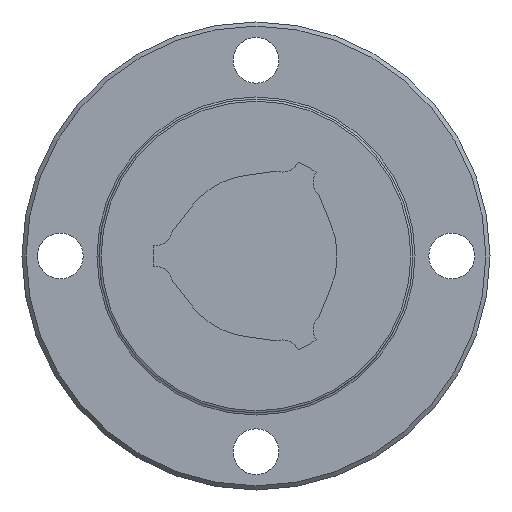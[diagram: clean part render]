
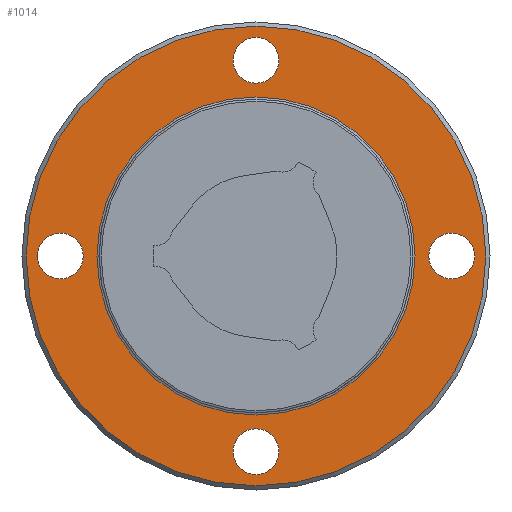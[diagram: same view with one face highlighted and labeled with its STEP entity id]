
A CAD part, left-side view. The second image highlights one B-rep face of the part: STEP entity #1014.
In plain terms, the highlighted planar face has unit normal (-1, 0, 0).
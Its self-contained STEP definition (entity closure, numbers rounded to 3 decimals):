
#49=PLANE('',#1146);
#319=ORIENTED_EDGE('',*,*,#534,.F.);
#320=ORIENTED_EDGE('',*,*,#535,.T.);
#321=ORIENTED_EDGE('',*,*,#536,.T.);
#322=ORIENTED_EDGE('',*,*,#537,.T.);
#323=ORIENTED_EDGE('',*,*,#538,.T.);
#324=ORIENTED_EDGE('',*,*,#533,.T.);
#533=EDGE_CURVE('',#651,#651,#730,.T.);
#534=EDGE_CURVE('',#652,#652,#731,.T.);
#535=EDGE_CURVE('',#653,#653,#732,.T.);
#536=EDGE_CURVE('',#654,#654,#733,.T.);
#537=EDGE_CURVE('',#655,#655,#734,.T.);
#538=EDGE_CURVE('',#656,#656,#735,.T.);
#651=VERTEX_POINT('',#1766);
#652=VERTEX_POINT('',#1769);
#653=VERTEX_POINT('',#1771);
#654=VERTEX_POINT('',#1773);
#655=VERTEX_POINT('',#1775);
#656=VERTEX_POINT('',#1777);
#730=CIRCLE('',#1145,38.2);
#731=CIRCLE('',#1147,55.2);
#732=CIRCLE('',#1148,5.5);
#733=CIRCLE('',#1149,5.5);
#734=CIRCLE('',#1150,5.5);
#735=CIRCLE('',#1151,5.5);
#795=EDGE_LOOP('',(#319));
#796=EDGE_LOOP('',(#320));
#797=EDGE_LOOP('',(#321));
#798=EDGE_LOOP('',(#322));
#799=EDGE_LOOP('',(#323));
#800=EDGE_LOOP('',(#324));
#891=FACE_BOUND('',#795,.T.);
#892=FACE_BOUND('',#796,.T.);
#893=FACE_BOUND('',#797,.T.);
#894=FACE_BOUND('',#798,.T.);
#895=FACE_BOUND('',#799,.T.);
#896=FACE_BOUND('',#800,.T.);
#1014=ADVANCED_FACE('',(#891,#892,#893,#894,#895,#896),#49,.F.);
#1145=AXIS2_PLACEMENT_3D('',#1765,#1388,#1389);
#1146=AXIS2_PLACEMENT_3D('',#1767,#1390,#1391);
#1147=AXIS2_PLACEMENT_3D('',#1768,#1392,#1393);
#1148=AXIS2_PLACEMENT_3D('',#1770,#1394,#1395);
#1149=AXIS2_PLACEMENT_3D('',#1772,#1396,#1397);
#1150=AXIS2_PLACEMENT_3D('',#1774,#1398,#1399);
#1151=AXIS2_PLACEMENT_3D('',#1776,#1400,#1401);
#1388=DIRECTION('',(1.,0.,0.));
#1389=DIRECTION('',(0.,1.,0.));
#1390=DIRECTION('',(1.,0.,0.));
#1391=DIRECTION('',(0.,1.,0.));
#1392=DIRECTION('',(1.,0.,0.));
#1393=DIRECTION('',(0.,1.,0.));
#1394=DIRECTION('',(1.,0.,0.));
#1395=DIRECTION('',(0.,0.,-1.));
#1396=DIRECTION('',(1.,0.,0.));
#1397=DIRECTION('',(0.,0.,-1.));
#1398=DIRECTION('',(1.,0.,0.));
#1399=DIRECTION('',(0.,0.,-1.));
#1400=DIRECTION('',(1.,0.,0.));
#1401=DIRECTION('',(0.,0.,-1.));
#1765=CARTESIAN_POINT('',(46.,0.,0.));
#1766=CARTESIAN_POINT('',(46.,38.2,0.));
#1767=CARTESIAN_POINT('',(46.,38.2,0.));
#1768=CARTESIAN_POINT('',(46.,0.,0.));
#1769=CARTESIAN_POINT('',(46.,55.2,0.));
#1770=CARTESIAN_POINT('',(46.,47.,0.));
#1771=CARTESIAN_POINT('',(46.,47.,-5.5));
#1772=CARTESIAN_POINT('',(46.,0.,-47.));
#1773=CARTESIAN_POINT('',(46.,0.,-52.5));
#1774=CARTESIAN_POINT('',(46.,0.,47.));
#1775=CARTESIAN_POINT('',(46.,0.,41.5));
#1776=CARTESIAN_POINT('',(46.,-47.,0.));
#1777=CARTESIAN_POINT('',(46.,-47.,-5.5));
